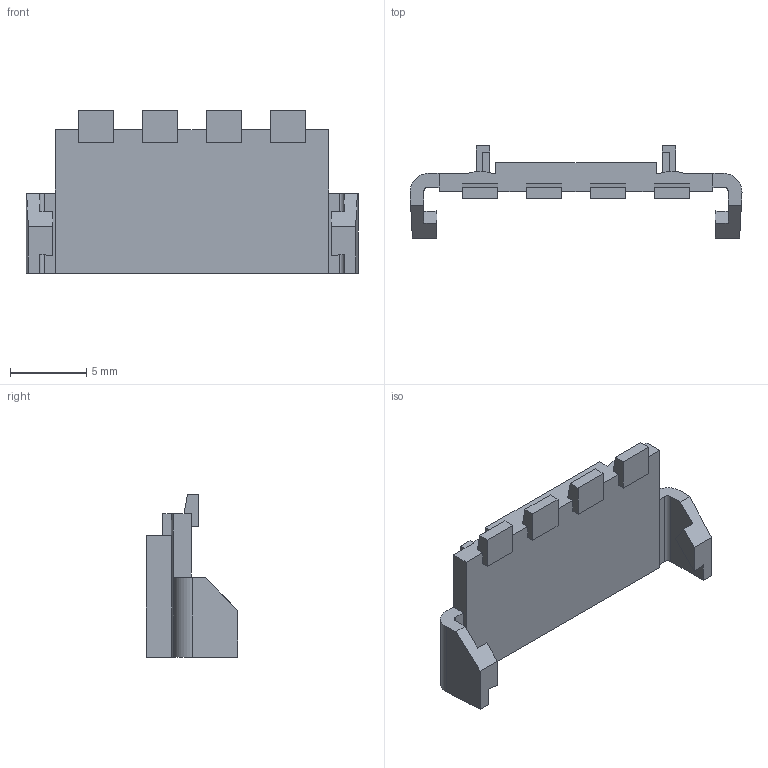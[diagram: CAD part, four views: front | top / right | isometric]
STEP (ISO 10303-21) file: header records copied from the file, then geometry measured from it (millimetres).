
FILE_DESCRIPTION(/* description */ (''),/* implementation_level */ '2;1');
FILE_NAME(/* name */ '1727090004wbm000_01_214.stp',/* time_stamp */ '2021-11-11T10:24:23+06:00',/* author */ (''),/* organization */ (''),/* preprocessor_version */ 'ST-DEVELOPER v16.7',/* originating_system */ 'SIEMENS PLM Software NX 1919',/* authorisation */ '');
FILE_SCHEMA (('AUTOMOTIVE_DESIGN { 1 0 10303 214 3 1 1 1 }'));
Length unit declared in the file: millimetre
Products named in the file (1): 1727090004wbm000_01
Bounding box: 21.8 x 6.04 x 10.68 mm (x, y, z)
Volume: 345.8 mm3; surface area: 669.4 mm2
Topology: 1 solids, 1 shells, 78 faces, 228 edges, 152 vertices
Faces by surface type: plane 68, cylinder 10
Entity records: 2583 total; most frequent: CARTESIAN_POINT 462, ORIENTED_EDGE 456, DIRECTION 411, EDGE_CURVE 228, LINE 201, VECTOR 201, VERTEX_POINT 152, AXIS2_PLACEMENT_3D 105
